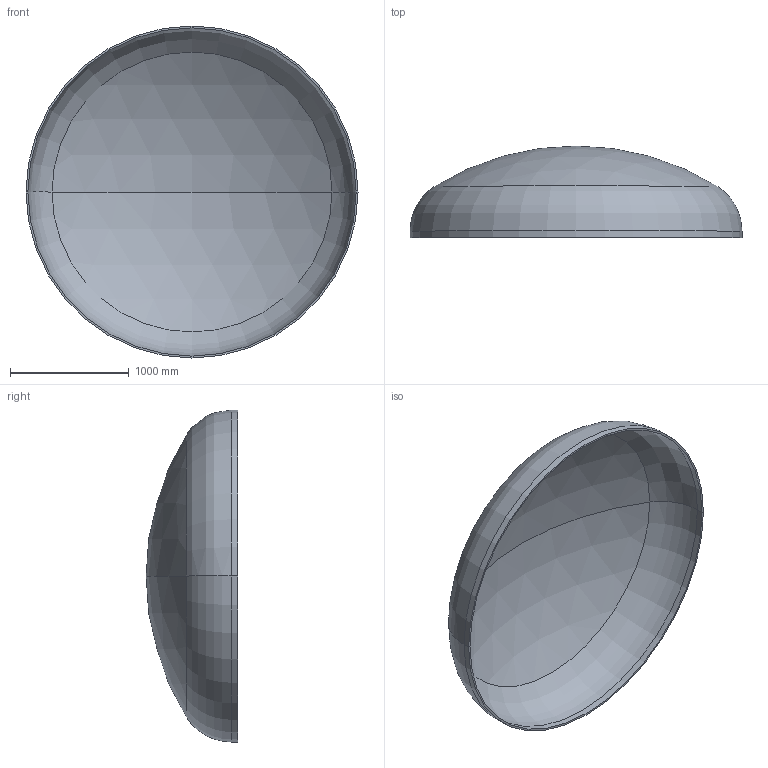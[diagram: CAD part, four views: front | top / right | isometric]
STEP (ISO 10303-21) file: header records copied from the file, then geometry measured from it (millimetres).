
FILE_DESCRIPTION (( 'STEP AP203' ), '1' );
FILE_NAME ('DIN 28013 Korbbogenform_-_Boden DIN 28013 - 2800 x 55 - I - s=16.step', '2016-07-01T16:44:35', ( '' ), ( '' ), 'SwSTEP 2.0', 'SolidWorks 2013', '' );
FILE_SCHEMA (( 'CONFIG_CONTROL_DESIGN' ));
Length unit declared in the file: millimetre
Products named in the file (1): DIN 28013 Korbbogenform_-_Boden DIN 28013 - 2800 x 55 - I - s=16
Bounding box: 2800 x 772.82 x 2800 mm (x, y, z)
Volume: 143048971.2 mm3; surface area: 18021589.7 mm2
Topology: 1 solids, 1 shells, 13 faces, 24 edges, 14 vertices
Faces by surface type: torus 4, cylinder 4, sphere 4, plane 1
Entity records: 407 total; most frequent: DIRECTION 72, CARTESIAN_POINT 52, ORIENTED_EDGE 48, AXIS2_PLACEMENT_3D 34, EDGE_CURVE 24, CIRCLE 20, EDGE_LOOP 14, VERTEX_POINT 14
